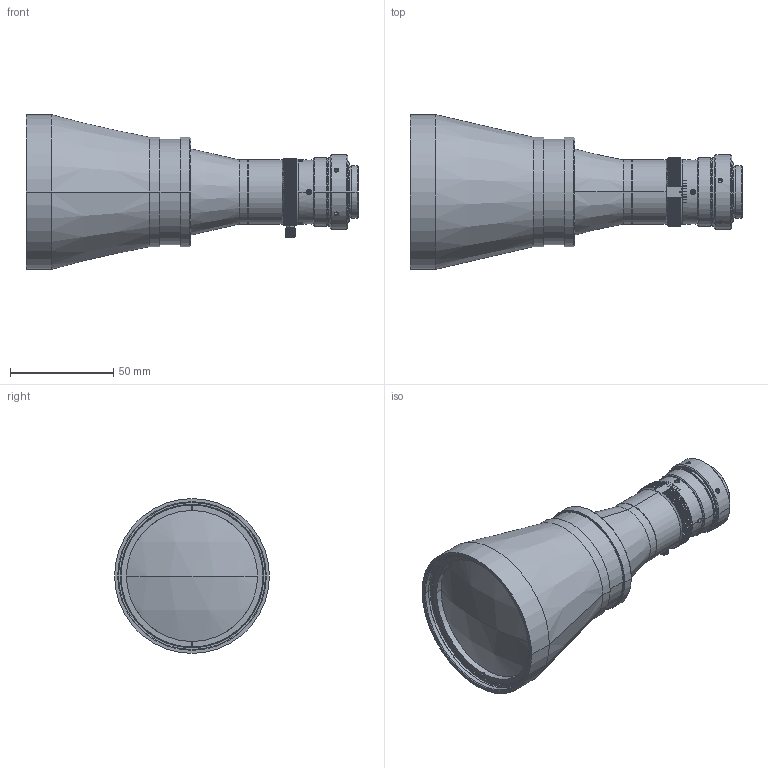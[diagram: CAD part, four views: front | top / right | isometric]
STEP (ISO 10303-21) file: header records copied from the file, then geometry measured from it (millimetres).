
FILE_DESCRIPTION (( 'STEP AP203' ), '1' );
FILE_NAME ('FJ1467-001(0.345x蹼擂竤豬).STEP', '2019-07-04T12:54:18', ( '' ), ( '' ), 'SwSTEP 2.0', 'SolidWorks 2016', '' );
FILE_SCHEMA (( 'CONFIG_CONTROL_DESIGN' ));
Length unit declared in the file: millimetre
Products named in the file (31): hexagon socket set screw cup point_jis_JIS B 1177 Cup point M2 x 3 --C; FJ1467-03-R01-171219; FJ1368-132-R01; FJ1467-10-R00-171023; FJ1467-G02乣G04_谳睫孮Assy; FJ1467-001(0.345x蹼擂竤豬); FJ1467-17W-R00_t=0.05-180422; FJ1467-08-R00-171023; FJ1467-05-R01-180213; FJ1467-01a-R00171113; FJ1467-17-R01-180422; FJ1467-07-R00-171024; 絞り#18-M_孔座; FJ1467-G01-R00-171021; hexagon socket set screw flat point_jis_JIS B 1177 Flat point M2 x 2 --N; FJ1467-11-R03-180422; 絞り#18-M_菊座; FJ1467-02-R00-171023; FJ1379-215-R01; FJ1467-18-R00-180213; 絞り#18-M_絞りピン; FJ1467-G01_谳睫孮Assy; FJ1467-19-R01-180422; hexagon socket set screw cup point_jis_JIS B 1177 Cup point M2.5 x 3 --C; 峣傝#18-M_C剌皋; FJ1467-01b-R00171029; FJ1467-G06-R01-180410; FJ1467-16-R01-180422; 絞り#18-M_Assy; FJ1467-04-R00-171023; FJ1467-12-R00-171023
Assembly tree (39 placements, depth 3):
  FJ1467-001(0.345x蹼擂竤豬)
    FJ1467-G01_谳睫孮Assy
      FJ1467-01a-R00171113
      FJ1467-G01-R00-171021
      FJ1467-02-R00-171023
    FJ1467-G02乣G04_谳睫孮Assy
      FJ1467-01b-R00171029
      FJ1467-04-R00-171023
      FJ1467-03-R01-171219
    FJ1467-05-R01-180213
    絞り#18-M_Assy
      絞り#18-M_孔座
      絞り#18-M_菊座
      絞り#18-M_絞りピン
      峣傝#18-M_C剌皋
    hexagon socket set screw cup point_jis_JIS B 1177 Cup point M2 x 3 --C  x2
    FJ1467-10-R00-171023
    FJ1467-08-R00-171023
    FJ1467-07-R00-171024
    FJ1467-11-R03-180422
    FJ1467-18-R00-180213
    hexagon socket set screw cup point_jis_JIS B 1177 Cup point M2.5 x 3 --C  x5
    FJ1467-16-R01-180422
    FJ1467-17W-R00_t=0.05-180422  x2
    FJ1467-17-R01-180422
    hexagon socket set screw flat point_jis_JIS B 1177 Flat point M2 x 2 --N  x4
    FJ1379-215-R01
    FJ1467-19-R01-180422
    FJ1467-G06-R01-180410
    FJ1467-12-R00-171023
    FJ1368-132-R01
Bounding box: 160.8 x 75 x 75 mm (x, y, z)
Volume: 126246.1 mm3; surface area: 89069.7 mm2
Topology: 36 solids, 36 shells, 1386 faces, 3635 edges, 2354 vertices
Faces by surface type: cylinder 604, plane 580, cone 188, sphere 8, torus 6
Entity records: 47105 total; most frequent: CARTESIAN_POINT 13629, ORIENTED_EDGE 6686, DIRECTION 5584, EDGE_CURVE 3343, VERTEX_POINT 2181, AXIS2_PLACEMENT_3D 2124, EDGE_LOOP 1390, VECTOR 1336
